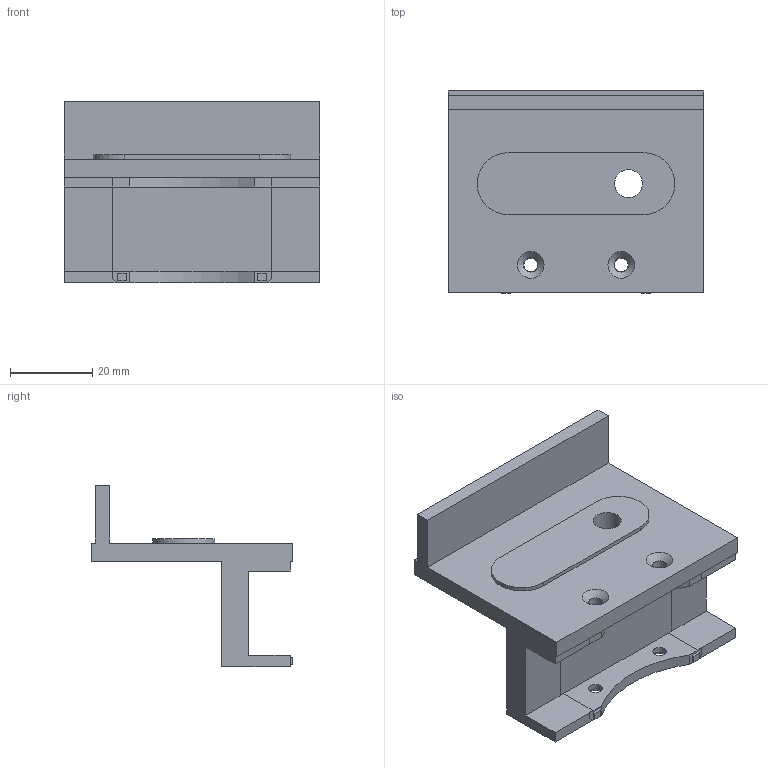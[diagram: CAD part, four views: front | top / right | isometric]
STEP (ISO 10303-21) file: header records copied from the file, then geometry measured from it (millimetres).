
FILE_DESCRIPTION(('Open CASCADE Model'),'2;1');
FILE_NAME('Open CASCADE Shape Model','2026-09-29T11:12:02',('Author'),( 'Open CASCADE'),'Open CASCADE STEP processor 7.9','Open CASCADE 7.9' ,'Unknown');
FILE_SCHEMA(('AUTOMOTIVE_DESIGN { 1 0 10303 214 1 1 1 1 }'));
Length unit declared in the file: millimetre
Products named in the file (1): Open CASCADE STEP translator 7.9 1
Bounding box: 62.1 x 49 x 44 mm (x, y, z)
Volume: 29797.5 mm3; surface area: 13971 mm2
Topology: 1 solids, 1 shells, 79 faces, 214 edges, 142 vertices
Faces by surface type: plane 61, cylinder 12, cone 6
Full cylindrical faces by diameter (mm): 3.3 x2, 3.5 x4, 6.8 x1
Entity records: 6116 total; most frequent: CARTESIAN_POINT 1775, DIRECTION 802, LINE 567, VECTOR 567, ORIENTED_EDGE 428, PCURVE 428, DEFINITIONAL_REPRESENTATION 428, EDGE_CURVE 214
